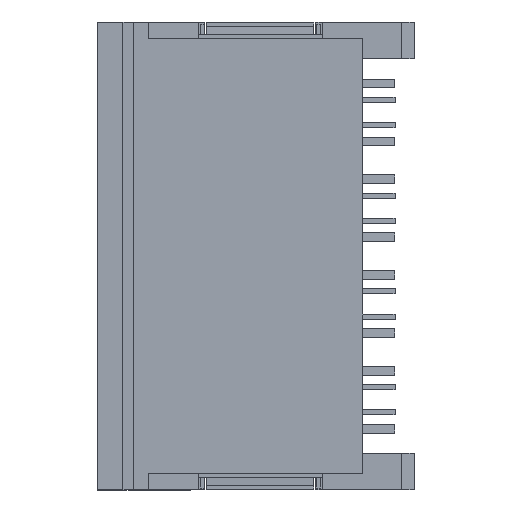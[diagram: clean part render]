
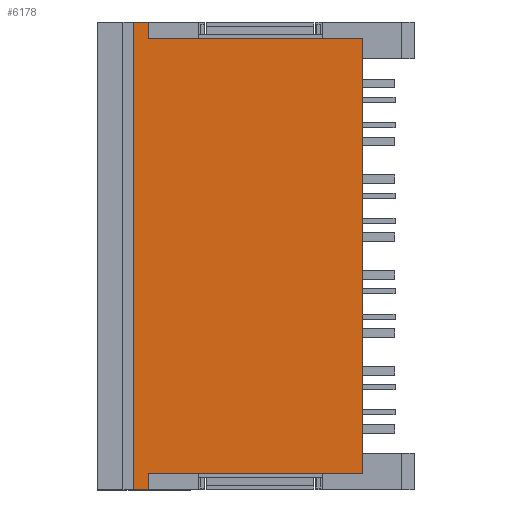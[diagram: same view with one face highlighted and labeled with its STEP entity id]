
A CAD part, top view. The second image highlights one B-rep face of the part: STEP entity #6178.
In plain terms, the highlighted planar face has unit normal (0, 0, 1).
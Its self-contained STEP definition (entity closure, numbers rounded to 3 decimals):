
#6107=AXIS2_PLACEMENT_3D('Plane Axis2P3D',#6104,#6105,#6106) ;
#3707=CARTESIAN_POINT('Vertex',(-11.,29.65,8.1)) ;
#3723=CARTESIAN_POINT('Vertex',(-11.,30.95,8.1)) ;
#3726=CARTESIAN_POINT('Line Origine',(-11.,30.3,8.1)) ;
#4851=CARTESIAN_POINT('Vertex',(-11.,-4.85,8.1)) ;
#4856=CARTESIAN_POINT('Line Origine',(-11.,-5.5,8.1)) ;
#4860=CARTESIAN_POINT('Vertex',(-11.,-6.15,8.1)) ;
#5797=CARTESIAN_POINT('Line Origine',(-2.5,29.65,8.1)) ;
#5801=CARTESIAN_POINT('Vertex',(6.,29.65,8.1)) ;
#5852=CARTESIAN_POINT('Vertex',(6.,-4.85,8.1)) ;
#5855=CARTESIAN_POINT('Line Origine',(-2.5,-4.85,8.1)) ;
#6104=CARTESIAN_POINT('Axis2P3D Location',(-15.,29.65,8.1)) ;
#6144=CARTESIAN_POINT('Line Origine',(-11.6,-6.15,8.1)) ;
#6148=CARTESIAN_POINT('Vertex',(-12.2,-6.15,8.1)) ;
#6151=CARTESIAN_POINT('Line Origine',(6.,12.4,8.1)) ;
#6156=CARTESIAN_POINT('Line Origine',(-11.6,30.95,8.1)) ;
#6160=CARTESIAN_POINT('Vertex',(-12.2,30.95,8.1)) ;
#6163=CARTESIAN_POINT('Line Origine',(-12.2,12.4,8.1)) ;
#3727=DIRECTION('Vector Direction',(0.,-1.,0.)) ;
#4857=DIRECTION('Vector Direction',(0.,1.,0.)) ;
#5798=DIRECTION('Vector Direction',(1.,0.,0.)) ;
#5856=DIRECTION('Vector Direction',(-1.,0.,0.)) ;
#6105=DIRECTION('Axis2P3D Direction',(0.,0.,1.)) ;
#6106=DIRECTION('Axis2P3D XDirection',(0.,-1.,0.)) ;
#6145=DIRECTION('Vector Direction',(-1.,0.,0.)) ;
#6152=DIRECTION('Vector Direction',(0.,1.,0.)) ;
#6157=DIRECTION('Vector Direction',(-1.,0.,0.)) ;
#6164=DIRECTION('Vector Direction',(0.,1.,0.)) ;
#3728=VECTOR('Line Direction',#3727,1.) ;
#4858=VECTOR('Line Direction',#4857,1.) ;
#5799=VECTOR('Line Direction',#5798,1.) ;
#5857=VECTOR('Line Direction',#5856,1.) ;
#6146=VECTOR('Line Direction',#6145,1.) ;
#6153=VECTOR('Line Direction',#6152,1.) ;
#6158=VECTOR('Line Direction',#6157,1.) ;
#6165=VECTOR('Line Direction',#6164,1.) ;
#6169=ORIENTED_EDGE('',*,*,#6150,.T.) ;
#6170=ORIENTED_EDGE('',*,*,#4862,.T.) ;
#6171=ORIENTED_EDGE('',*,*,#5859,.F.) ;
#6172=ORIENTED_EDGE('',*,*,#6155,.T.) ;
#6173=ORIENTED_EDGE('',*,*,#5803,.F.) ;
#6174=ORIENTED_EDGE('',*,*,#3730,.F.) ;
#6175=ORIENTED_EDGE('',*,*,#6162,.F.) ;
#6176=ORIENTED_EDGE('',*,*,#6167,.F.) ;
#6178=ADVANCED_FACE('\X2\FF8AFF9FFF70FF82\X0\ \X2\FF8EFF9EFF83FF9EFF68FF70\X0\',(#6177),#6108,.T.) ;
#3730=EDGE_CURVE('',#3724,#3708,#3729,.T.) ;
#4862=EDGE_CURVE('',#4861,#4852,#4859,.T.) ;
#5803=EDGE_CURVE('',#3708,#5802,#5800,.T.) ;
#5859=EDGE_CURVE('',#5853,#4852,#5858,.T.) ;
#6150=EDGE_CURVE('',#6149,#4861,#6147,.F.) ;
#6155=EDGE_CURVE('',#5853,#5802,#6154,.T.) ;
#6162=EDGE_CURVE('',#6161,#3724,#6159,.F.) ;
#6167=EDGE_CURVE('',#6149,#6161,#6166,.T.) ;
#6168=EDGE_LOOP('',(#6169,#6170,#6171,#6172,#6173,#6174,#6175,#6176)) ;
#6177=FACE_OUTER_BOUND('',#6168,.T.) ;
#3729=LINE('Line',#3726,#3728) ;
#4859=LINE('Line',#4856,#4858) ;
#5800=LINE('Line',#5797,#5799) ;
#5858=LINE('Line',#5855,#5857) ;
#6147=LINE('Line',#6144,#6146) ;
#6154=LINE('Line',#6151,#6153) ;
#6159=LINE('Line',#6156,#6158) ;
#6166=LINE('Line',#6163,#6165) ;
#6108=PLANE('',#6107) ;
#3708=VERTEX_POINT('',#3707) ;
#3724=VERTEX_POINT('',#3723) ;
#4852=VERTEX_POINT('',#4851) ;
#4861=VERTEX_POINT('',#4860) ;
#5802=VERTEX_POINT('',#5801) ;
#5853=VERTEX_POINT('',#5852) ;
#6149=VERTEX_POINT('',#6148) ;
#6161=VERTEX_POINT('',#6160) ;
